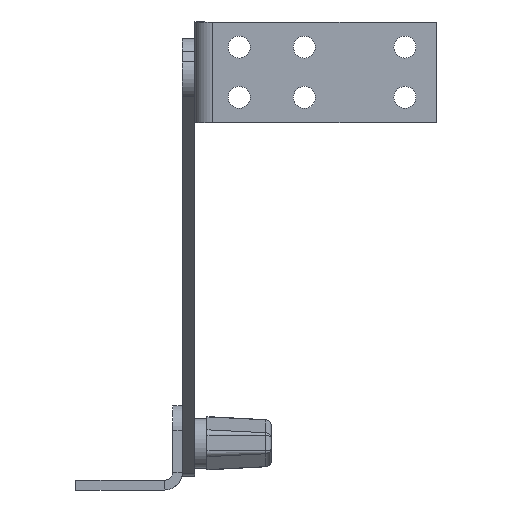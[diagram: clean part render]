
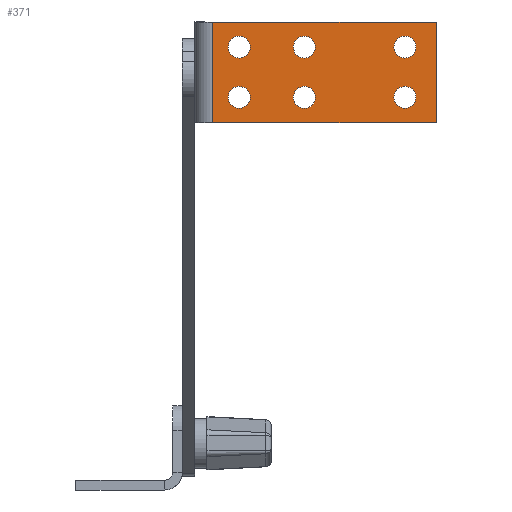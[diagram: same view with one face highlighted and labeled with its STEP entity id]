
A CAD part, left-side view. The second image highlights one B-rep face of the part: STEP entity #371.
In plain terms, the highlighted planar face has unit normal (-1, 0, 0).
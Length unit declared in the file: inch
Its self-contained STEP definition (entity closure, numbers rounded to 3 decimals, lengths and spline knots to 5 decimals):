
#98 = EDGE_CURVE ( 'NONE', #99, #100, #596, .T. ) ;
#99 = VERTEX_POINT ( 'NONE', #592 ) ;
#100 = VERTEX_POINT ( 'NONE', #591 ) ;
#115 = EDGE_CURVE ( 'NONE', #116, #117, #659, .T. ) ;
#116 = VERTEX_POINT ( 'NONE', #655 ) ;
#117 = VERTEX_POINT ( 'NONE', #654 ) ;
#143 = EDGE_CURVE ( 'NONE', #144, #145, #673, .T. ) ;
#144 = VERTEX_POINT ( 'NONE', #669 ) ;
#145 = VERTEX_POINT ( 'NONE', #668 ) ;
#147 = EDGE_CURVE ( 'NONE', #148, #149, #667, .T. ) ;
#148 = VERTEX_POINT ( 'NONE', #726 ) ;
#149 = VERTEX_POINT ( 'NONE', #725 ) ;
#163 = EDGE_CURVE ( 'NONE', #164, #165, #702, .T. ) ;
#164 = VERTEX_POINT ( 'NONE', #698 ) ;
#165 = VERTEX_POINT ( 'NONE', #761 ) ;
#213 = EDGE_CURVE ( 'NONE', #214, #215, #795, .T. ) ;
#214 = VERTEX_POINT ( 'NONE', #856 ) ;
#215 = VERTEX_POINT ( 'NONE', #855 ) ;
#231 = EDGE_CURVE ( 'NONE', #232, #244, #889, .T. ) ;
#232 = VERTEX_POINT ( 'NONE', #885 ) ;
#244 = VERTEX_POINT ( 'NONE', #857 ) ;
#255 = VERTEX_POINT ( 'NONE', #904 ) ;
#299 = EDGE_LOOP ( 'NONE', ( #300, #302 ) ) ;
#300 = ORIENTED_EDGE ( 'NONE', *, *, #301, .T. ) ;
#301 = EDGE_CURVE ( 'NONE', #100, #99, #961, .T. ) ;
#302 = ORIENTED_EDGE ( 'NONE', *, *, #98, .T. ) ;
#303 = EDGE_LOOP ( 'NONE', ( #356, #358 ) ) ;
#315 = EDGE_CURVE ( 'NONE', #316, #232, #1005, .T. ) ;
#316 = VERTEX_POINT ( 'NONE', #1001 ) ;
#342 = ORIENTED_EDGE ( 'NONE', *, *, #343, .T. ) ;
#343 = EDGE_CURVE ( 'NONE', #145, #144, #1023, .T. ) ;
#344 = ORIENTED_EDGE ( 'NONE', *, *, #143, .T. ) ;
#345 = EDGE_LOOP ( 'NONE', ( #346, #347, #349, #351 ) ) ;
#346 = ORIENTED_EDGE ( 'NONE', *, *, #231, .T. ) ;
#347 = ORIENTED_EDGE ( 'NONE', *, *, #348, .F. ) ;
#348 = EDGE_CURVE ( 'NONE', #255, #244, #1018, .T. ) ;
#349 = ORIENTED_EDGE ( 'NONE', *, *, #350, .F. ) ;
#350 = EDGE_CURVE ( 'NONE', #316, #255, #1081, .T. ) ;
#351 = ORIENTED_EDGE ( 'NONE', *, *, #315, .T. ) ;
#356 = ORIENTED_EDGE ( 'NONE', *, *, #357, .T. ) ;
#357 = EDGE_CURVE ( 'NONE', #165, #164, #1070, .T. ) ;
#358 = ORIENTED_EDGE ( 'NONE', *, *, #163, .T. ) ;
#359 = EDGE_LOOP ( 'NONE', ( #360, #362 ) ) ;
#360 = ORIENTED_EDGE ( 'NONE', *, *, #361, .T. ) ;
#361 = EDGE_CURVE ( 'NONE', #149, #148, #1066, .T. ) ;
#362 = ORIENTED_EDGE ( 'NONE', *, *, #147, .T. ) ;
#363 = EDGE_LOOP ( 'NONE', ( #364, #366 ) ) ;
#364 = ORIENTED_EDGE ( 'NONE', *, *, #365, .T. ) ;
#365 = EDGE_CURVE ( 'NONE', #215, #214, #1061, .T. ) ;
#366 = ORIENTED_EDGE ( 'NONE', *, *, #213, .T. ) ;
#367 = EDGE_LOOP ( 'NONE', ( #342, #344 ) ) ;
#371 = ADVANCED_FACE ( 'NONE', ( #1120, #1119, #1118, #1117, #1116, #1115, #1114 ), #1113, .F. ) ;
#372 = EDGE_LOOP ( 'NONE', ( #373, #375 ) ) ;
#373 = ORIENTED_EDGE ( 'NONE', *, *, #374, .T. ) ;
#374 = EDGE_CURVE ( 'NONE', #117, #116, #1108, .T. ) ;
#375 = ORIENTED_EDGE ( 'NONE', *, *, #115, .T. ) ;
#544 = DIRECTION ( 'NONE',  ( 0., 1., 0. ) ) ;
#545 = DIRECTION ( 'NONE',  ( 1., 0., 0. ) ) ;
#546 = CARTESIAN_POINT ( 'NONE',  ( -0.097, 1.992, -0.25 ) ) ;
#550 = AXIS2_PLACEMENT_3D ( 'NONE', #546, #545, #544 ) ;
#591 = CARTESIAN_POINT ( 'NONE',  ( -0.097, 0.4525, -0.25 ) ) ;
#592 = CARTESIAN_POINT ( 'NONE',  ( -0.097, 0.2335, -0.25 ) ) ;
#593 = DIRECTION ( 'NONE',  ( 0., 1., 0. ) ) ;
#594 = DIRECTION ( 'NONE',  ( 1., 0., 0. ) ) ;
#595 = AXIS2_PLACEMENT_3D ( 'NONE', #602, #594, #593 ) ;
#596 = CIRCLE ( 'NONE', #595, 0.1095 ) ;
#602 = CARTESIAN_POINT ( 'NONE',  ( -0.097, 0.343, -0.25 ) ) ;
#654 = CARTESIAN_POINT ( 'NONE',  ( -0.097, 0.4525, 0.25 ) ) ;
#655 = CARTESIAN_POINT ( 'NONE',  ( -0.097, 0.2335, 0.25 ) ) ;
#656 = DIRECTION ( 'NONE',  ( 0., 1., 0. ) ) ;
#657 = DIRECTION ( 'NONE',  ( 1., 0., 0. ) ) ;
#658 = AXIS2_PLACEMENT_3D ( 'NONE', #664, #657, #656 ) ;
#659 = CIRCLE ( 'NONE', #658, 0.1095 ) ;
#664 = CARTESIAN_POINT ( 'NONE',  ( -0.097, 0.343, 0.25 ) ) ;
#667 = CIRCLE ( 'NONE', #730, 0.1095 ) ;
#668 = CARTESIAN_POINT ( 'NONE',  ( -0.097, 2.1015, 0.25 ) ) ;
#669 = CARTESIAN_POINT ( 'NONE',  ( -0.097, 1.8825, 0.25 ) ) ;
#670 = DIRECTION ( 'NONE',  ( 0., 1., 0. ) ) ;
#671 = DIRECTION ( 'NONE',  ( 1., 0., 0. ) ) ;
#672 = AXIS2_PLACEMENT_3D ( 'NONE', #679, #671, #670 ) ;
#673 = CIRCLE ( 'NONE', #672, 0.1095 ) ;
#679 = CARTESIAN_POINT ( 'NONE',  ( -0.097, 1.992, 0.25 ) ) ;
#698 = CARTESIAN_POINT ( 'NONE',  ( -0.097, 0.8825, -0.25 ) ) ;
#699 = DIRECTION ( 'NONE',  ( 0., 1., 0. ) ) ;
#700 = DIRECTION ( 'NONE',  ( 1., 0., 0. ) ) ;
#701 = AXIS2_PLACEMENT_3D ( 'NONE', #708, #700, #699 ) ;
#702 = CIRCLE ( 'NONE', #701, 0.1095 ) ;
#708 = CARTESIAN_POINT ( 'NONE',  ( -0.097, 0.992, -0.25 ) ) ;
#725 = CARTESIAN_POINT ( 'NONE',  ( -0.097, 1.1015, 0.25 ) ) ;
#726 = CARTESIAN_POINT ( 'NONE',  ( -0.097, 0.8825, 0.25 ) ) ;
#727 = DIRECTION ( 'NONE',  ( 0., 1., 0. ) ) ;
#728 = DIRECTION ( 'NONE',  ( 1., 0., 0. ) ) ;
#729 = CARTESIAN_POINT ( 'NONE',  ( -0.097, 0.992, 0.25 ) ) ;
#730 = AXIS2_PLACEMENT_3D ( 'NONE', #729, #728, #727 ) ;
#761 = CARTESIAN_POINT ( 'NONE',  ( -0.097, 1.1015, -0.25 ) ) ;
#795 = CIRCLE ( 'NONE', #550, 0.1095 ) ;
#855 = CARTESIAN_POINT ( 'NONE',  ( -0.097, 2.1015, -0.25 ) ) ;
#856 = CARTESIAN_POINT ( 'NONE',  ( -0.097, 1.8825, -0.25 ) ) ;
#857 = CARTESIAN_POINT ( 'NONE',  ( -0.097, 0.08, -0.5 ) ) ;
#885 = CARTESIAN_POINT ( 'NONE',  ( -0.097, 2.303, -0.5 ) ) ;
#886 = DIRECTION ( 'NONE',  ( 0., -1., 0. ) ) ;
#887 = VECTOR ( 'NONE', #886, 39.37008 ) ;
#888 = CARTESIAN_POINT ( 'NONE',  ( -0.097, 2.303, -0.5 ) ) ;
#889 = LINE ( 'NONE', #888, #887 ) ;
#904 = CARTESIAN_POINT ( 'NONE',  ( -0.097, 0.08, 0.5 ) ) ;
#957 = DIRECTION ( 'NONE',  ( 0., 1., 0. ) ) ;
#958 = DIRECTION ( 'NONE',  ( 1., 0., 0. ) ) ;
#959 = CARTESIAN_POINT ( 'NONE',  ( -0.097, 0.343, -0.25 ) ) ;
#960 = AXIS2_PLACEMENT_3D ( 'NONE', #959, #958, #957 ) ;
#961 = CIRCLE ( 'NONE', #960, 0.1095 ) ;
#1001 = CARTESIAN_POINT ( 'NONE',  ( -0.097, 2.303, 0.5 ) ) ;
#1002 = DIRECTION ( 'NONE',  ( 0., 0., -1. ) ) ;
#1003 = VECTOR ( 'NONE', #1002, 39.37008 ) ;
#1004 = CARTESIAN_POINT ( 'NONE',  ( -0.097, 2.303, 0.5 ) ) ;
#1005 = LINE ( 'NONE', #1004, #1003 ) ;
#1018 = LINE ( 'NONE', #1084, #1083 ) ;
#1019 = DIRECTION ( 'NONE',  ( 0., 1., 0. ) ) ;
#1020 = DIRECTION ( 'NONE',  ( 1., 0., 0. ) ) ;
#1021 = CARTESIAN_POINT ( 'NONE',  ( -0.097, 1.992, 0.25 ) ) ;
#1022 = AXIS2_PLACEMENT_3D ( 'NONE', #1021, #1020, #1019 ) ;
#1023 = CIRCLE ( 'NONE', #1022, 0.1095 ) ;
#1057 = DIRECTION ( 'NONE',  ( 0., 1., 0. ) ) ;
#1058 = DIRECTION ( 'NONE',  ( 1., 0., 0. ) ) ;
#1059 = CARTESIAN_POINT ( 'NONE',  ( -0.097, 1.992, -0.25 ) ) ;
#1060 = AXIS2_PLACEMENT_3D ( 'NONE', #1059, #1058, #1057 ) ;
#1061 = CIRCLE ( 'NONE', #1060, 0.1095 ) ;
#1062 = DIRECTION ( 'NONE',  ( 0., 1., 0. ) ) ;
#1063 = DIRECTION ( 'NONE',  ( 1., 0., 0. ) ) ;
#1064 = CARTESIAN_POINT ( 'NONE',  ( -0.097, 0.992, 0.25 ) ) ;
#1065 = AXIS2_PLACEMENT_3D ( 'NONE', #1064, #1063, #1062 ) ;
#1066 = CIRCLE ( 'NONE', #1065, 0.1095 ) ;
#1067 = DIRECTION ( 'NONE',  ( 0., 1., 0. ) ) ;
#1068 = DIRECTION ( 'NONE',  ( 1., 0., 0. ) ) ;
#1069 = AXIS2_PLACEMENT_3D ( 'NONE', #1076, #1068, #1067 ) ;
#1070 = CIRCLE ( 'NONE', #1069, 0.1095 ) ;
#1076 = CARTESIAN_POINT ( 'NONE',  ( -0.097, 0.992, -0.25 ) ) ;
#1078 = DIRECTION ( 'NONE',  ( 0., -1., 0. ) ) ;
#1079 = VECTOR ( 'NONE', #1078, 39.37008 ) ;
#1080 = CARTESIAN_POINT ( 'NONE',  ( -0.097, 2.303, 0.5 ) ) ;
#1081 = LINE ( 'NONE', #1080, #1079 ) ;
#1082 = DIRECTION ( 'NONE',  ( 0., 0., -1. ) ) ;
#1083 = VECTOR ( 'NONE', #1082, 39.37008 ) ;
#1084 = CARTESIAN_POINT ( 'NONE',  ( -0.097, 0.08, 0.5 ) ) ;
#1104 = DIRECTION ( 'NONE',  ( 0., 1., 0. ) ) ;
#1105 = DIRECTION ( 'NONE',  ( 1., 0., 0. ) ) ;
#1106 = CARTESIAN_POINT ( 'NONE',  ( -0.097, 0.343, 0.25 ) ) ;
#1107 = AXIS2_PLACEMENT_3D ( 'NONE', #1106, #1105, #1104 ) ;
#1108 = CIRCLE ( 'NONE', #1107, 0.1095 ) ;
#1109 = DIRECTION ( 'NONE',  ( 0., 1., 0. ) ) ;
#1110 = DIRECTION ( 'NONE',  ( 1., 0., 0. ) ) ;
#1111 = CARTESIAN_POINT ( 'NONE',  ( -0.097, 2.303, 0.5 ) ) ;
#1112 = AXIS2_PLACEMENT_3D ( 'NONE', #1111, #1110, #1109 ) ;
#1113 = PLANE ( 'NONE',  #1112 ) ;
#1114 = FACE_OUTER_BOUND ( 'NONE', #345, .T. ) ;
#1115 = FACE_BOUND ( 'NONE', #367, .T. ) ;
#1116 = FACE_BOUND ( 'NONE', #363, .T. ) ;
#1117 = FACE_BOUND ( 'NONE', #359, .T. ) ;
#1118 = FACE_BOUND ( 'NONE', #303, .T. ) ;
#1119 = FACE_BOUND ( 'NONE', #299, .T. ) ;
#1120 = FACE_BOUND ( 'NONE', #372, .T. ) ;
